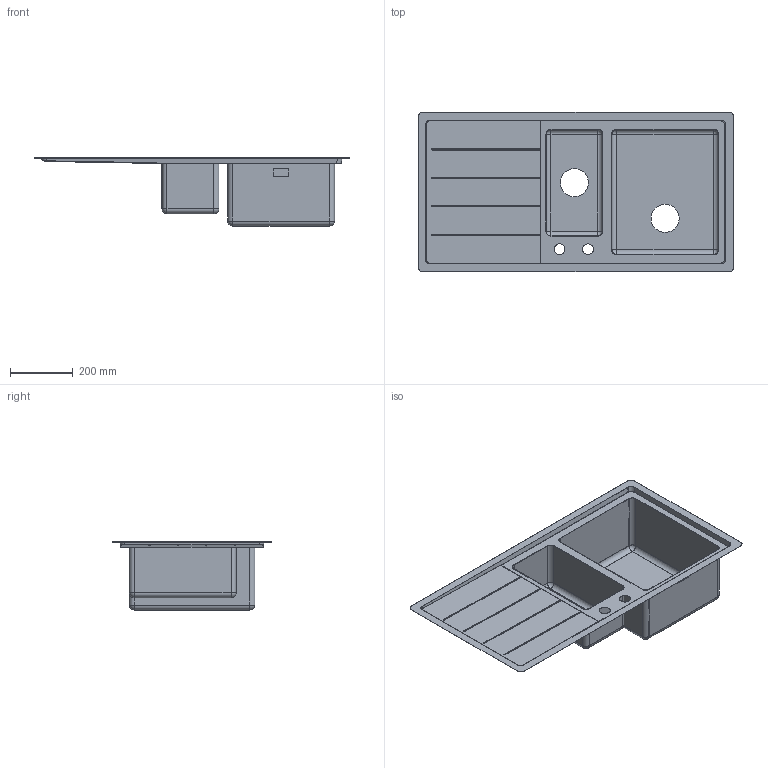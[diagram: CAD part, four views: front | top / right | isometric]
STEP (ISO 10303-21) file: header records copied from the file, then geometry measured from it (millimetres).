
FILE_DESCRIPTION(('CATIA V5 STEP Exchange'),'2;1');
FILE_NAME('C:\Users\linop\Desktop\LFT102D.stp','2018-05-30T15:08:49+00:00',('none'),('none'),'CATIA Version 5-6 Release 2014','CATIA V5 STEP AP203','none');
FILE_SCHEMA(('CONFIG_CONTROL_DESIGN'));
Length unit declared in the file: millimetre
Products named in the file (1): LFT102D
Bounding box: 1010 x 510 x 217.7 mm (x, y, z)
Volume: 869370.4 mm3; surface area: 1958512.8 mm2
Topology: 3 solids, 3 shells, 154 faces, 416 edges, 240 vertices
Faces by surface type: cylinder 68, plane 54, sphere 32
Entity records: 4667 total; most frequent: CARTESIAN_POINT 1145, ORIENTED_EDGE 768, DIRECTION 598, EDGE_CURVE 384, AXIS2_PLACEMENT_3D 257, VERTEX_POINT 240, VECTOR 201, LINE 201
